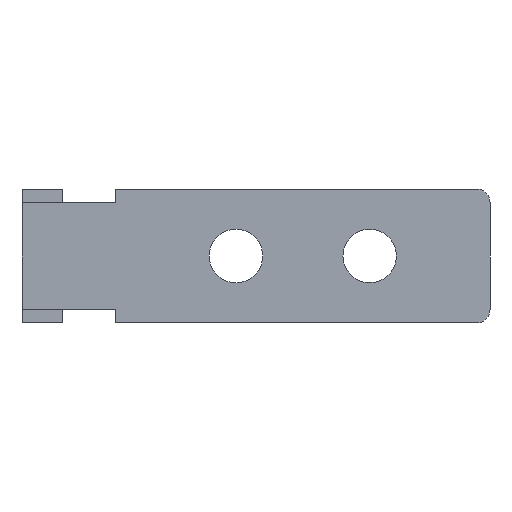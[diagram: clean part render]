
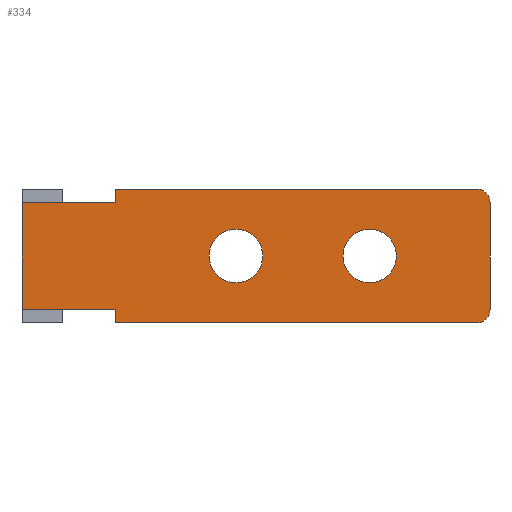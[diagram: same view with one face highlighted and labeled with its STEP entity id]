
A CAD part, front view. The second image highlights one B-rep face of the part: STEP entity #334.
In plain terms, the highlighted planar face has unit normal (0, -1, 0).
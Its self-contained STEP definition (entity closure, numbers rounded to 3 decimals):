
#2 = CARTESIAN_POINT ( 'NONE',  ( 36.377, -26.54, 1. ) ) ;
#14 = CARTESIAN_POINT ( 'NONE',  ( 9.377, -26.54, 1. ) ) ;
#19 = FACE_BOUND ( 'NONE', #747, .T. ) ;
#21 = EDGE_CURVE ( 'NONE', #178, #929, #912, .T. ) ;
#27 = EDGE_CURVE ( 'NONE', #453, #141, #131, .T. ) ;
#32 = CARTESIAN_POINT ( 'NONE',  ( 0., -26.54, 10. ) ) ;
#37 = DIRECTION ( 'NONE',  ( 0., 1., 0. ) ) ;
#45 = VECTOR ( 'NONE', #637, 1000. ) ;
#67 = ORIENTED_EDGE ( 'NONE', *, *, #613, .T. ) ;
#72 = DIRECTION ( 'NONE',  ( 0., 0., -1. ) ) ;
#73 = VERTEX_POINT ( 'NONE', #905 ) ;
#76 = LINE ( 'NONE', #972, #840 ) ;
#80 = DIRECTION ( 'NONE',  ( 0., 0., 1. ) ) ;
#84 = DIRECTION ( 'NONE',  ( 0., -1., 0. ) ) ;
#94 = EDGE_CURVE ( 'NONE', #942, #801, #76, .T. ) ;
#100 = VECTOR ( 'NONE', #463, 1000. ) ;
#112 = CARTESIAN_POINT ( 'NONE',  ( 2.377, -26.54, 10. ) ) ;
#131 = CIRCLE ( 'NONE', #526, 1. ) ;
#141 = VERTEX_POINT ( 'NONE', #692 ) ;
#151 = CARTESIAN_POINT ( 'NONE',  ( 2.377, -26.54, 9. ) ) ;
#154 = DIRECTION ( 'NONE',  ( 1., 0., 0. ) ) ;
#159 = AXIS2_PLACEMENT_3D ( 'NONE', #221, #754, #300 ) ;
#178 = VERTEX_POINT ( 'NONE', #296 ) ;
#181 = EDGE_CURVE ( 'NONE', #929, #178, #955, .T. ) ;
#182 = VECTOR ( 'NONE', #356, 1000. ) ;
#187 = CARTESIAN_POINT ( 'NONE',  ( 9.377, -26.54, 10. ) ) ;
#192 = AXIS2_PLACEMENT_3D ( 'NONE', #729, #278, #804 ) ;
#203 = CARTESIAN_POINT ( 'NONE',  ( 9.377, -26.54, 9. ) ) ;
#212 = EDGE_CURVE ( 'NONE', #422, #141, #344, .T. ) ;
#221 = CARTESIAN_POINT ( 'NONE',  ( 18.377, -26.54, 5. ) ) ;
#225 = CIRCLE ( 'NONE', #192, 2. ) ;
#226 = DIRECTION ( 'NONE',  ( 1., 0., 0. ) ) ;
#230 = EDGE_CURVE ( 'NONE', #593, #820, #315, .T. ) ;
#237 = CARTESIAN_POINT ( 'NONE',  ( 2.377, -26.54, 1. ) ) ;
#250 = VECTOR ( 'NONE', #543, 1000. ) ;
#255 = ORIENTED_EDGE ( 'NONE', *, *, #329, .T. ) ;
#263 = DIRECTION ( 'NONE',  ( 0., 0., 1. ) ) ;
#278 = DIRECTION ( 'NONE',  ( 0., 1., 0. ) ) ;
#287 = EDGE_LOOP ( 'NONE', ( #970, #67, #787, #863, #619, #255, #750, #371, #337, #441 ) ) ;
#296 = CARTESIAN_POINT ( 'NONE',  ( 20.377, -26.54, 5. ) ) ;
#300 = DIRECTION ( 'NONE',  ( 0., 0., 1. ) ) ;
#304 = DIRECTION ( 'NONE',  ( 0., 1., 0. ) ) ;
#315 = LINE ( 'NONE', #151, #539 ) ;
#329 = EDGE_CURVE ( 'NONE', #593, #73, #425, .T. ) ;
#334 = ADVANCED_FACE ( 'NONE', ( #19, #852, #620 ), #402, .F. ) ;
#335 = EDGE_CURVE ( 'NONE', #598, #964, #595, .T. ) ;
#337 = ORIENTED_EDGE ( 'NONE', *, *, #695, .T. ) ;
#339 = CARTESIAN_POINT ( 'NONE',  ( 9.377, -26.54, 9. ) ) ;
#340 = CARTESIAN_POINT ( 'NONE',  ( 26.377, -26.54, 5. ) ) ;
#344 = LINE ( 'NONE', #524, #514 ) ;
#356 = DIRECTION ( 'NONE',  ( 0., 0., 1. ) ) ;
#371 = ORIENTED_EDGE ( 'NONE', *, *, #420, .T. ) ;
#385 = EDGE_CURVE ( 'NONE', #466, #73, #476, .T. ) ;
#402 = PLANE ( 'NONE',  #716 ) ;
#420 = EDGE_CURVE ( 'NONE', #466, #694, #655, .T. ) ;
#422 = VERTEX_POINT ( 'NONE', #933 ) ;
#425 = LINE ( 'NONE', #112, #45 ) ;
#441 = ORIENTED_EDGE ( 'NONE', *, *, #27, .T. ) ;
#453 = VERTEX_POINT ( 'NONE', #578 ) ;
#459 = CARTESIAN_POINT ( 'NONE',  ( 2.377, -26.54, 9. ) ) ;
#460 = CARTESIAN_POINT ( 'NONE',  ( 36.377, -26.54, 10. ) ) ;
#463 = DIRECTION ( 'NONE',  ( -1., 0., 0. ) ) ;
#464 = EDGE_CURVE ( 'NONE', #964, #598, #225, .T. ) ;
#466 = VERTEX_POINT ( 'NONE', #961 ) ;
#476 = LINE ( 'NONE', #237, #100 ) ;
#480 = AXIS2_PLACEMENT_3D ( 'NONE', #759, #304, #835 ) ;
#489 = CARTESIAN_POINT ( 'NONE',  ( 28.377, -26.54, 5. ) ) ;
#514 = VECTOR ( 'NONE', #72, 1000. ) ;
#524 = CARTESIAN_POINT ( 'NONE',  ( 37.377, -26.54, 10. ) ) ;
#526 = AXIS2_PLACEMENT_3D ( 'NONE', #2, #530, #80 ) ;
#527 = CARTESIAN_POINT ( 'NONE',  ( 0., -26.54, 0. ) ) ;
#529 = DIRECTION ( 'NONE',  ( 1., 0., 0. ) ) ;
#530 = DIRECTION ( 'NONE',  ( 0., -1., 0. ) ) ;
#531 = CARTESIAN_POINT ( 'NONE',  ( 30.377, -26.54, 5. ) ) ;
#533 = EDGE_CURVE ( 'NONE', #820, #942, #762, .T. ) ;
#535 = CARTESIAN_POINT ( 'NONE',  ( 36.377, -26.54, 9. ) ) ;
#539 = VECTOR ( 'NONE', #226, 1000. ) ;
#543 = DIRECTION ( 'NONE',  ( 0., 0., -1. ) ) ;
#556 = ORIENTED_EDGE ( 'NONE', *, *, #464, .T. ) ;
#566 = DIRECTION ( 'NONE',  ( 0., 0., 1. ) ) ;
#578 = CARTESIAN_POINT ( 'NONE',  ( 36.377, -26.54, 0. ) ) ;
#593 = VERTEX_POINT ( 'NONE', #459 ) ;
#595 = CIRCLE ( 'NONE', #660, 2. ) ;
#598 = VERTEX_POINT ( 'NONE', #531 ) ;
#610 = DIRECTION ( 'NONE',  ( 0., 0., 1. ) ) ;
#613 = EDGE_CURVE ( 'NONE', #422, #801, #796, .T. ) ;
#619 = ORIENTED_EDGE ( 'NONE', *, *, #230, .F. ) ;
#620 = FACE_OUTER_BOUND ( 'NONE', #287, .T. ) ;
#623 = EDGE_LOOP ( 'NONE', ( #556, #720 ) ) ;
#637 = DIRECTION ( 'NONE',  ( 0., 0., -1. ) ) ;
#655 = LINE ( 'NONE', #14, #250 ) ;
#660 = AXIS2_PLACEMENT_3D ( 'NONE', #489, #37, #566 ) ;
#661 = ORIENTED_EDGE ( 'NONE', *, *, #21, .T. ) ;
#692 = CARTESIAN_POINT ( 'NONE',  ( 37.377, -26.54, 1. ) ) ;
#693 = VECTOR ( 'NONE', #154, 1000. ) ;
#694 = VERTEX_POINT ( 'NONE', #832 ) ;
#695 = EDGE_CURVE ( 'NONE', #694, #453, #743, .T. ) ;
#712 = DIRECTION ( 'NONE',  ( 0., 1., 0. ) ) ;
#716 = AXIS2_PLACEMENT_3D ( 'NONE', #32, #712, #263 ) ;
#720 = ORIENTED_EDGE ( 'NONE', *, *, #335, .T. ) ;
#729 = CARTESIAN_POINT ( 'NONE',  ( 28.377, -26.54, 5. ) ) ;
#743 = LINE ( 'NONE', #527, #693 ) ;
#744 = AXIS2_PLACEMENT_3D ( 'NONE', #535, #84, #610 ) ;
#747 = EDGE_LOOP ( 'NONE', ( #850, #661 ) ) ;
#750 = ORIENTED_EDGE ( 'NONE', *, *, #385, .F. ) ;
#754 = DIRECTION ( 'NONE',  ( 0., 1., 0. ) ) ;
#759 = CARTESIAN_POINT ( 'NONE',  ( 18.377, -26.54, 5. ) ) ;
#762 = LINE ( 'NONE', #203, #182 ) ;
#787 = ORIENTED_EDGE ( 'NONE', *, *, #94, .F. ) ;
#796 = CIRCLE ( 'NONE', #744, 1. ) ;
#801 = VERTEX_POINT ( 'NONE', #460 ) ;
#804 = DIRECTION ( 'NONE',  ( 0., 0., 1. ) ) ;
#820 = VERTEX_POINT ( 'NONE', #339 ) ;
#832 = CARTESIAN_POINT ( 'NONE',  ( 9.377, -26.54, 0. ) ) ;
#835 = DIRECTION ( 'NONE',  ( 0., 0., 1. ) ) ;
#840 = VECTOR ( 'NONE', #529, 1000. ) ;
#850 = ORIENTED_EDGE ( 'NONE', *, *, #181, .T. ) ;
#852 = FACE_BOUND ( 'NONE', #623, .T. ) ;
#863 = ORIENTED_EDGE ( 'NONE', *, *, #533, .F. ) ;
#905 = CARTESIAN_POINT ( 'NONE',  ( 2.377, -26.54, 1. ) ) ;
#912 = CIRCLE ( 'NONE', #480, 2. ) ;
#929 = VERTEX_POINT ( 'NONE', #950 ) ;
#933 = CARTESIAN_POINT ( 'NONE',  ( 37.377, -26.54, 9. ) ) ;
#942 = VERTEX_POINT ( 'NONE', #187 ) ;
#950 = CARTESIAN_POINT ( 'NONE',  ( 16.377, -26.54, 5. ) ) ;
#955 = CIRCLE ( 'NONE', #159, 2. ) ;
#961 = CARTESIAN_POINT ( 'NONE',  ( 9.377, -26.54, 1. ) ) ;
#964 = VERTEX_POINT ( 'NONE', #340 ) ;
#970 = ORIENTED_EDGE ( 'NONE', *, *, #212, .F. ) ;
#972 = CARTESIAN_POINT ( 'NONE',  ( 0., -26.54, 10. ) ) ;
